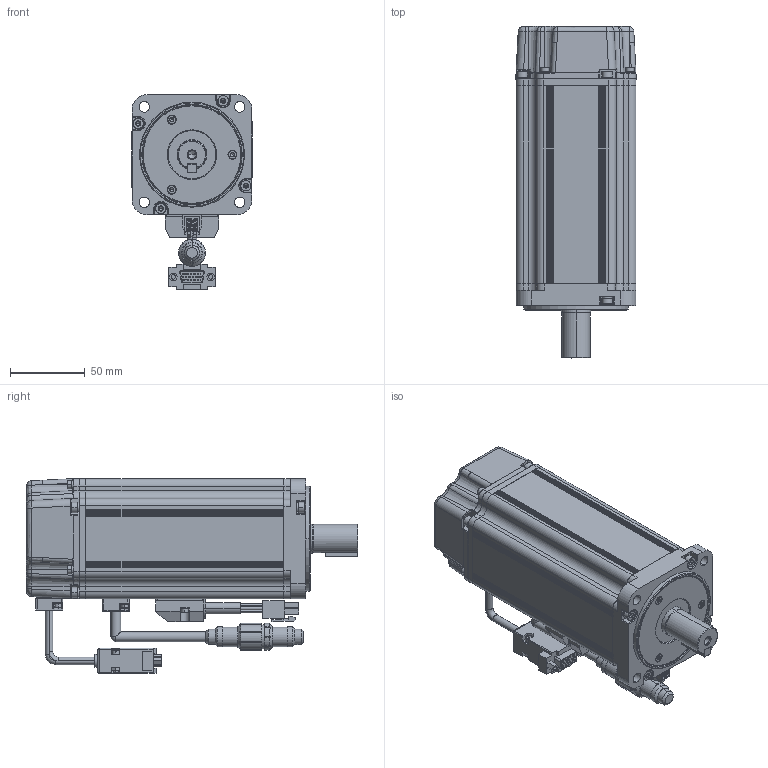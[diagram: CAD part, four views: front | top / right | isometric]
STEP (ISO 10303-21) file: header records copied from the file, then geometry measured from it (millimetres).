
FILE_DESCRIPTION((''),'2;1');
FILE_NAME('ASM0001_ASM','2018-05-04T',('q'),(''),'PRO/ENGINEER BY PARAMETRIC TECHNOLOGY CORPORATION, 2009440','PRO/ENGINEER BY PARAMETRIC TECHNOLOGY CORPORATION, 2009440','');
FILE_SCHEMA(('CONFIG_CONTROL_DESIGN'));
Products named in the file (33): PRT0001; ASM0002_ASM; PRT0002; PRT0003; PRT0004; PRT0005; PRT0006; PRT0007; PRT0008; PRT0009; PRT0010; ASM0003_ASM; PRT0011; PRT0012; PRT0013; PRT0014; PRT0015; PRT0016; ASM0004_ASM; PRT0017; PRT0018; PRT0019; XHX_1; GB-T93-2R5_1; GB-T70-M2R5X8_1; PRT0020; PRT0021; GB-T93-3_1; GB-T70-M3X12_1; GB-T93-4_1; GB-T70-M4X20_1; PRT0022; ASM0001_ASM
Assembly tree (62 placements, depth 3):
  ASM0001_ASM
    ASM0002_ASM
      PRT0001
    ASM0003_ASM
      PRT0002
      PRT0003
      PRT0004
      PRT0005
      PRT0006
      PRT0007  x3
      PRT0008  x3
      PRT0009  x4
      PRT0010  x4
    ASM0004_ASM
      PRT0011
      PRT0012
      PRT0013
      PRT0014
      PRT0015  x4
      PRT0016  x4
    PRT0017
    PRT0018
    PRT0019
    XHX_1
    GB-T93-2R5_1  x2
    GB-T70-M2R5X8_1  x2
    PRT0020
    PRT0021
    GB-T93-3_1  x4
    GB-T70-M3X12_1  x4
    GB-T93-4_1  x4
    GB-T70-M4X20_1  x4
    PRT0022
Bounding box: 80.14 x 221.4 x 129.98 mm (x, y, z)
Volume: 406444.1 mm3; surface area: 215118.5 mm2
Topology: 59 solids, 84 shells, 3150 faces, 7778 edges, 4865 vertices
Faces by surface type: plane 1488, cylinder 928, cone 386, torus 146, bspline 143, sphere 55, extrusion 4
Entity records: 107556 total; most frequent: CARTESIAN_POINT 27764, DIRECTION 13055, ORIENTED_EDGE 12758, EDGE_CURVE 6405, AXIS2_PLACEMENT_3D 4796, VERTEX_POINT 4130, VECTOR 3463, LINE 3459
